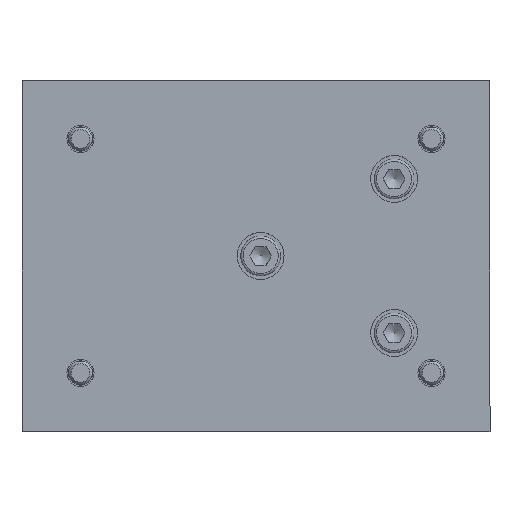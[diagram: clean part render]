
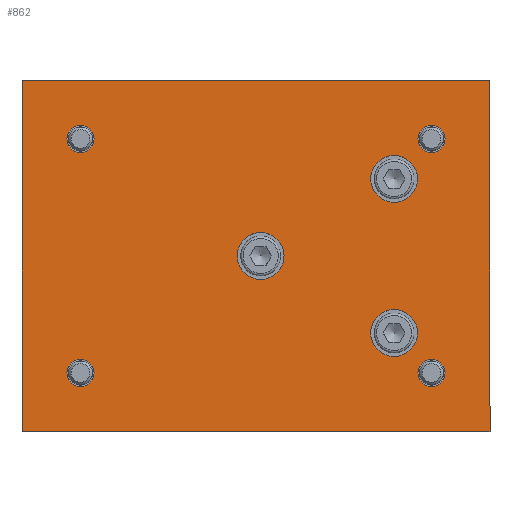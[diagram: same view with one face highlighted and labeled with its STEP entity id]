
A CAD part, top view. The second image highlights one B-rep face of the part: STEP entity #862.
In plain terms, the highlighted planar face has unit normal (0, 0, 1) as drawn and (0, 0, -1) by its records, which use the part's own axes.
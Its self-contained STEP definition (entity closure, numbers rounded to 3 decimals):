
#92=FACE_BOUND('',#251,.T.);
#93=FACE_BOUND('',#252,.T.);
#94=FACE_BOUND('',#253,.T.);
#95=FACE_BOUND('',#254,.T.);
#96=FACE_BOUND('',#255,.T.);
#97=FACE_BOUND('',#256,.T.);
#98=FACE_BOUND('',#257,.T.);
#115=CIRCLE('',#964,5.);
#116=CIRCLE('',#965,5.);
#120=CIRCLE('',#972,5.);
#121=CIRCLE('',#973,5.);
#125=CIRCLE('',#980,5.);
#126=CIRCLE('',#981,5.);
#130=CIRCLE('',#989,2.9);
#134=CIRCLE('',#996,2.9);
#138=CIRCLE('',#1003,2.9);
#142=CIRCLE('',#1010,2.9);
#190=FACE_OUTER_BOUND('',#250,.T.);
#250=EDGE_LOOP('',(#712,#713,#714,#715));
#251=EDGE_LOOP('',(#716,#717));
#252=EDGE_LOOP('',(#718,#719));
#253=EDGE_LOOP('',(#720,#721));
#254=EDGE_LOOP('',(#722));
#255=EDGE_LOOP('',(#723));
#256=EDGE_LOOP('',(#724));
#257=EDGE_LOOP('',(#725));
#288=LINE('',#1367,#338);
#291=LINE('',#1372,#341);
#307=LINE('',#1496,#357);
#308=LINE('',#1498,#358);
#338=VECTOR('',#1082,10.);
#341=VECTOR('',#1087,10.);
#357=VECTOR('',#1233,10.);
#358=VECTOR('',#1236,10.);
#383=VERTEX_POINT('',#1364);
#384=VERTEX_POINT('',#1366);
#385=VERTEX_POINT('',#1370);
#400=VERTEX_POINT('',#1404);
#401=VERTEX_POINT('',#1405);
#405=VERTEX_POINT('',#1419);
#406=VERTEX_POINT('',#1420);
#410=VERTEX_POINT('',#1434);
#411=VERTEX_POINT('',#1435);
#415=VERTEX_POINT('',#1451);
#419=VERTEX_POINT('',#1464);
#423=VERTEX_POINT('',#1477);
#427=VERTEX_POINT('',#1490);
#428=VERTEX_POINT('',#1494);
#471=EDGE_CURVE('',#383,#384,#288,.T.);
#474=EDGE_CURVE('',#385,#383,#291,.T.);
#489=EDGE_CURVE('',#400,#401,#115,.T.);
#490=EDGE_CURVE('',#401,#400,#116,.T.);
#496=EDGE_CURVE('',#405,#406,#120,.T.);
#497=EDGE_CURVE('',#406,#405,#121,.T.);
#503=EDGE_CURVE('',#410,#411,#125,.T.);
#504=EDGE_CURVE('',#411,#410,#126,.T.);
#512=EDGE_CURVE('',#415,#415,#130,.T.);
#518=EDGE_CURVE('',#419,#419,#134,.T.);
#524=EDGE_CURVE('',#423,#423,#138,.T.);
#530=EDGE_CURVE('',#427,#427,#142,.T.);
#532=EDGE_CURVE('',#428,#385,#307,.T.);
#533=EDGE_CURVE('',#384,#428,#308,.T.);
#712=ORIENTED_EDGE('',*,*,#474,.F.);
#713=ORIENTED_EDGE('',*,*,#532,.F.);
#714=ORIENTED_EDGE('',*,*,#533,.F.);
#715=ORIENTED_EDGE('',*,*,#471,.F.);
#716=ORIENTED_EDGE('',*,*,#489,.T.);
#717=ORIENTED_EDGE('',*,*,#490,.T.);
#718=ORIENTED_EDGE('',*,*,#496,.T.);
#719=ORIENTED_EDGE('',*,*,#497,.T.);
#720=ORIENTED_EDGE('',*,*,#503,.T.);
#721=ORIENTED_EDGE('',*,*,#504,.T.);
#722=ORIENTED_EDGE('',*,*,#512,.T.);
#723=ORIENTED_EDGE('',*,*,#518,.T.);
#724=ORIENTED_EDGE('',*,*,#524,.T.);
#725=ORIENTED_EDGE('',*,*,#530,.T.);
#822=PLANE('',#1013);
#862=ADVANCED_FACE('',(#190,#92,#93,#94,#95,#96,#97,#98),#822,.F.);
#964=AXIS2_PLACEMENT_3D('',#1406,#1122,#1123);
#965=AXIS2_PLACEMENT_3D('',#1407,#1124,#1125);
#972=AXIS2_PLACEMENT_3D('',#1421,#1140,#1141);
#973=AXIS2_PLACEMENT_3D('',#1422,#1142,#1143);
#980=AXIS2_PLACEMENT_3D('',#1436,#1158,#1159);
#981=AXIS2_PLACEMENT_3D('',#1437,#1160,#1161);
#989=AXIS2_PLACEMENT_3D('',#1453,#1180,#1181);
#996=AXIS2_PLACEMENT_3D('',#1466,#1196,#1197);
#1003=AXIS2_PLACEMENT_3D('',#1479,#1212,#1213);
#1010=AXIS2_PLACEMENT_3D('',#1492,#1228,#1229);
#1013=AXIS2_PLACEMENT_3D('',#1499,#1237,#1238);
#1082=DIRECTION('',(0.,1.,0.));
#1087=DIRECTION('',(1.,0.,0.));
#1122=DIRECTION('center_axis',(0.,0.,1.));
#1123=DIRECTION('ref_axis',(-1.,0.,0.));
#1124=DIRECTION('center_axis',(0.,0.,1.));
#1125=DIRECTION('ref_axis',(-1.,0.,0.));
#1140=DIRECTION('center_axis',(0.,0.,1.));
#1141=DIRECTION('ref_axis',(-1.,0.,0.));
#1142=DIRECTION('center_axis',(0.,0.,1.));
#1143=DIRECTION('ref_axis',(-1.,0.,0.));
#1158=DIRECTION('center_axis',(0.,0.,1.));
#1159=DIRECTION('ref_axis',(-1.,0.,0.));
#1160=DIRECTION('center_axis',(0.,0.,1.));
#1161=DIRECTION('ref_axis',(-1.,0.,0.));
#1180=DIRECTION('center_axis',(0.,0.,1.));
#1181=DIRECTION('ref_axis',(1.,0.,0.));
#1196=DIRECTION('center_axis',(0.,0.,1.));
#1197=DIRECTION('ref_axis',(1.,0.,0.));
#1212=DIRECTION('center_axis',(0.,0.,1.));
#1213=DIRECTION('ref_axis',(1.,0.,0.));
#1228=DIRECTION('center_axis',(0.,0.,1.));
#1229=DIRECTION('ref_axis',(1.,0.,0.));
#1233=DIRECTION('',(0.,-1.,0.));
#1236=DIRECTION('',(-1.,0.,0.));
#1237=DIRECTION('center_axis',(0.,0.,1.));
#1238=DIRECTION('ref_axis',(1.,0.,0.));
#1364=CARTESIAN_POINT('',(45.659,-83.084,0.));
#1366=CARTESIAN_POINT('',(45.659,16.916,0.));
#1367=CARTESIAN_POINT('',(45.659,-83.084,0.));
#1370=CARTESIAN_POINT('',(-29.341,-83.084,0.));
#1372=CARTESIAN_POINT('',(-29.341,-83.084,0.));
#1404=CARTESIAN_POINT('',(-13.296,-62.584,0.));
#1405=CARTESIAN_POINT('',(-3.296,-62.584,0.));
#1406=CARTESIAN_POINT('Origin',(-8.296,-62.584,0.));
#1407=CARTESIAN_POINT('Origin',(-8.296,-62.584,0.));
#1419=CARTESIAN_POINT('',(19.613,-62.584,0.));
#1420=CARTESIAN_POINT('',(29.613,-62.584,0.));
#1421=CARTESIAN_POINT('Origin',(24.613,-62.584,0.));
#1422=CARTESIAN_POINT('Origin',(24.613,-62.584,0.));
#1434=CARTESIAN_POINT('',(3.159,-34.084,0.));
#1435=CARTESIAN_POINT('',(13.159,-34.084,0.));
#1436=CARTESIAN_POINT('Origin',(8.159,-34.084,0.));
#1437=CARTESIAN_POINT('Origin',(8.159,-34.084,0.));
#1451=CARTESIAN_POINT('',(30.259,-70.584,0.));
#1453=CARTESIAN_POINT('Origin',(33.159,-70.584,0.));
#1464=CARTESIAN_POINT('',(-19.741,4.416,0.));
#1466=CARTESIAN_POINT('Origin',(-16.841,4.416,0.));
#1477=CARTESIAN_POINT('',(-19.741,-70.584,0.));
#1479=CARTESIAN_POINT('Origin',(-16.841,-70.584,0.));
#1490=CARTESIAN_POINT('',(30.259,4.416,0.));
#1492=CARTESIAN_POINT('Origin',(33.159,4.416,0.));
#1494=CARTESIAN_POINT('',(-29.341,16.916,0.));
#1496=CARTESIAN_POINT('',(-29.341,16.916,0.));
#1498=CARTESIAN_POINT('',(45.659,16.916,0.));
#1499=CARTESIAN_POINT('Origin',(8.159,-33.084,0.));
